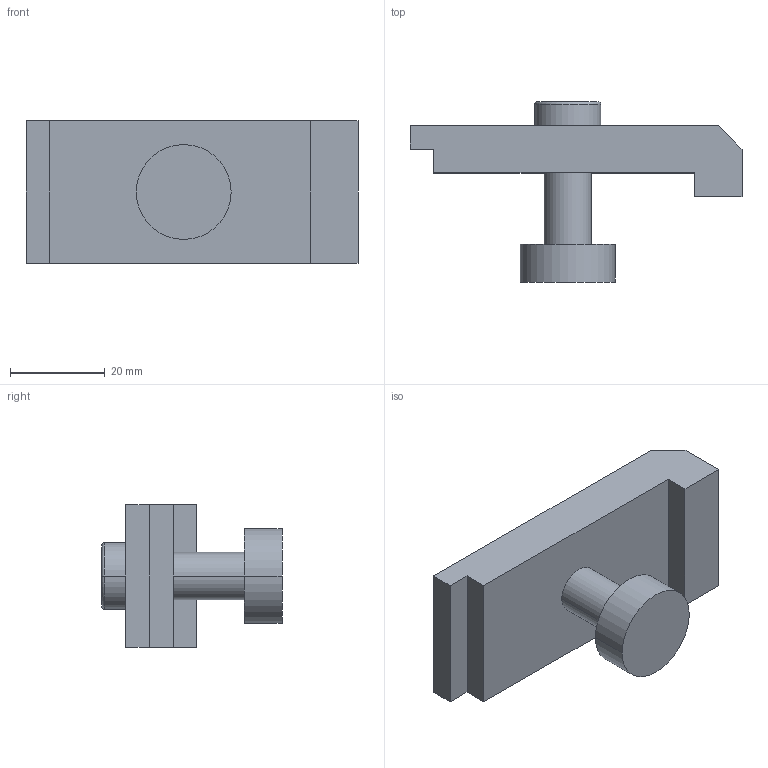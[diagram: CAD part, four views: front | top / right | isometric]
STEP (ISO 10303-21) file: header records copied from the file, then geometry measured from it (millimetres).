
FILE_DESCRIPTION (( 'STEP AP203' ), '1' );
FILE_NAME ('bride.STEP', '2009-12-04T12:12:32', ( 'Famille Couzi' ), ( '' ), 'SwSTEP 2.0', 'SolidWorks 2005143', '' );
FILE_SCHEMA (( 'CONFIG_CONTROL_DESIGN' ));
Length unit declared in the file: millimetre
Products named in the file (1): bride
Bounding box: 70 x 38 x 30 mm (x, y, z)
Volume: 25321 mm3; surface area: 8702.4 mm2
Topology: 1 solids, 1 shells, 32 faces, 73 edges, 48 vertices
Faces by surface type: plane 22, cylinder 8, torus 2
Entity records: 978 total; most frequent: DIRECTION 159, CARTESIAN_POINT 154, ORIENTED_EDGE 146, EDGE_CURVE 73, AXIS2_PLACEMENT_3D 53, VECTOR 53, LINE 53, VERTEX_POINT 48
